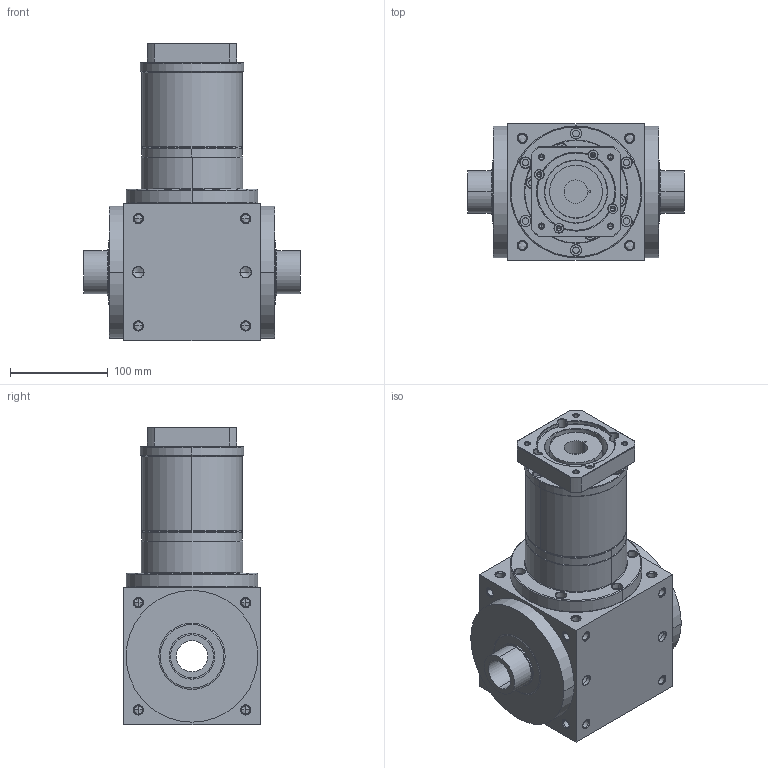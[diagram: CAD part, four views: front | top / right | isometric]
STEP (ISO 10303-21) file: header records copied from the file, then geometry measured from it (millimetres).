
FILE_DESCRIPTION((''),'2;1');
FILE_NAME('AT140FC2-P0405300303_ASM','2009-02-06T',('d00176'),(''),'PRO/ENGINEER BY PARAMETRIC TECHNOLOGY CORPORATION, 2006170','PRO/ENGINEER BY PARAMETRIC TECHNOLOGY CORPORATION, 2006170','');
FILE_SCHEMA(('CONFIG_CONTROL_DESIGN'));
Length unit declared in the file: millimetre
Products named in the file (5): ATFC-HOUSING-2-6; P1801600001; P0226600001; P0405300303; AT140FC2-P0405300303_ASM
Assembly tree (4 placements, depth 2):
  AT140FC2-P0405300303_ASM
    ATFC-HOUSING-2-6
    P1801600001
    P0226600001
    P0405300303
Bounding box: 222 x 140 x 304.5 mm (x, y, z)
Volume: 4065193.5 mm3; surface area: 373598.9 mm2
Topology: 4 solids, 42 shells, 810 faces, 1988 edges, 1180 vertices
Faces by surface type: cylinder 352, cone 278, plane 118, torus 46, bspline 16
Entity records: 25029 total; most frequent: CARTESIAN_POINT 5919, DIRECTION 4268, ORIENTED_EDGE 3656, EDGE_CURVE 1904, AXIS2_PLACEMENT_3D 1785, VERTEX_POINT 1180, CIRCLE 974, EDGE_LOOP 962
